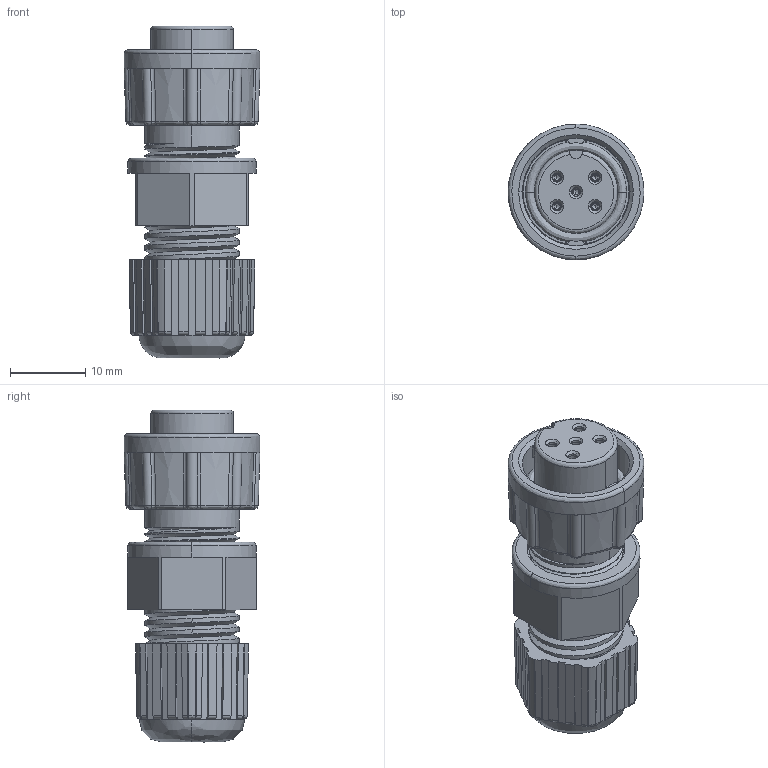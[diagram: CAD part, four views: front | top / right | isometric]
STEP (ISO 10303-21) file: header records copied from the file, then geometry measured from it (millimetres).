
FILE_DESCRIPTION (( 'STEP AP203' ), '1' );
FILE_NAME ('868-005-203KIT.STEP', '2024-06-13T20:20:56', ( '' ), ( '' ), 'SwSTEP 2.0', 'SolidWorks 2020', '' );
FILE_SCHEMA (( 'CONFIG_CONTROL_DESIGN' ));
Length unit declared in the file: millimetre
Products named in the file (1): 868-005-203KIT
Bounding box: 18 x 18 x 44 mm (x, y, z)
Volume: 5805 mm3; surface area: 7149.7 mm2
Topology: 2 solids, 2 shells, 623 faces, 1664 edges, 1050 vertices
Faces by surface type: plane 232, cylinder 194, cone 102, bspline 95
Entity records: 32387 total; most frequent: CARTESIAN_POINT 18177, ORIENTED_EDGE 3288, DIRECTION 2522, EDGE_CURVE 1644, VERTEX_POINT 1050, AXIS2_PLACEMENT_3D 986, EDGE_LOOP 656, FACE_OUTER_BOUND 623
